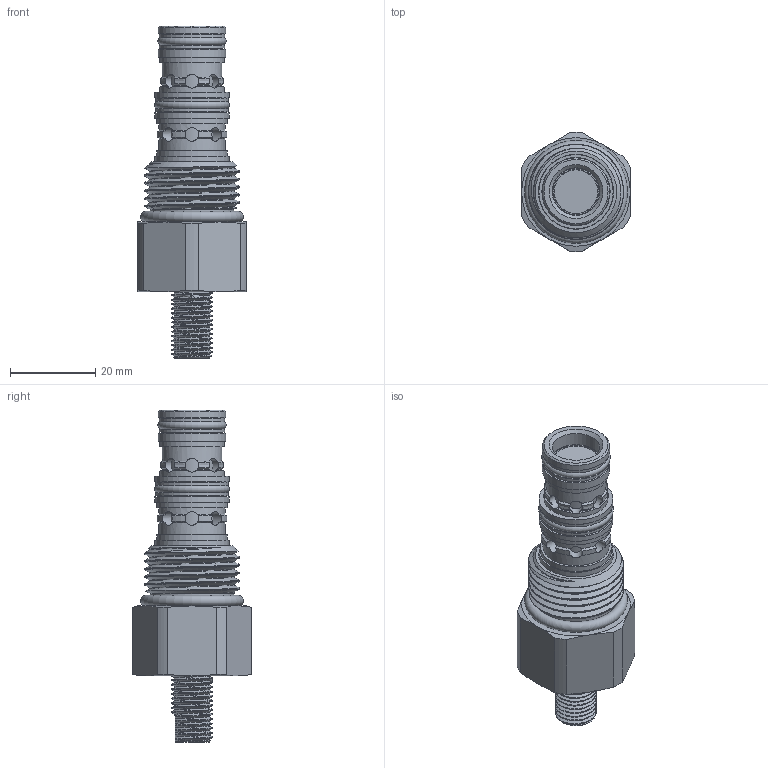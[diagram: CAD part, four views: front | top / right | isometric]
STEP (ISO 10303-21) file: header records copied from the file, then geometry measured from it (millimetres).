
FILE_DESCRIPTION(/* description */ ('','CAx-IF Rec.Pracs.---Representation and Presentation of Product Manufacturing Information (PMI)---4.0---2014-10-13'),/* implementation_level */ '2;1');
FILE_NAME(/* name */ 'P:\EARS\EAR16xx\EAR1683 - catalog pages changes\Group3_Distribution_1_18_23\RTeck Agency_Tom_UNSENT\_step files\HDFM3C00.stp',/* time_stamp */ '2023-01-25T13:50:30-06:00',/* author */ ('Michael'),/* organization */ (''),/* preprocessor_version */ 'ST-DEVELOPER v17.2',/* originating_system */ 'Autodesk Inventor 2019',/* authorisation */ '');
FILE_SCHEMA (('AP242_MANAGED_MODEL_BASED_3D_ENGINEERING_MIM_LF { 1 0 10303 442 1 1 4 }'));
Length unit declared in the file: inch
Products named in the file (1): HDFM3C00
Bounding box: 25.4 x 27.82 x 77.69 mm (x, y, z)
Volume: 20500.2 mm3; surface area: 8470.3 mm2
Topology: 1 solids, 2 shells, 289 faces, 802 edges, 538 vertices
Faces by surface type: cylinder 118, plane 63, cone 58, bspline 38, torus 12
Full cylindrical faces by diameter (mm): 3.175 x16, 3.969 x1, 9.525 x9, 11.1 x1, 11.11 x1, 12.992 x2, 13.97 x1, 14.592 x2, 14.732 x1, 15.011 x2, 15.392 x2, 15.494 x2, 15.773 x2, 16.612 x2, 16.967 x2, 17.323 x1, 17.374 x2, 17.399 x1, 19.621 x2, 22.225 x4
Entity records: 19188 total; most frequent: CARTESIAN_POINT 12110, ORIENTED_EDGE 1602, DIRECTION 1151, EDGE_CURVE 801, VERTEX_POINT 538, AXIS2_PLACEMENT_3D 510, B_SPLINE_CURVE_WITH_KNOTS 373, EDGE_LOOP 322
